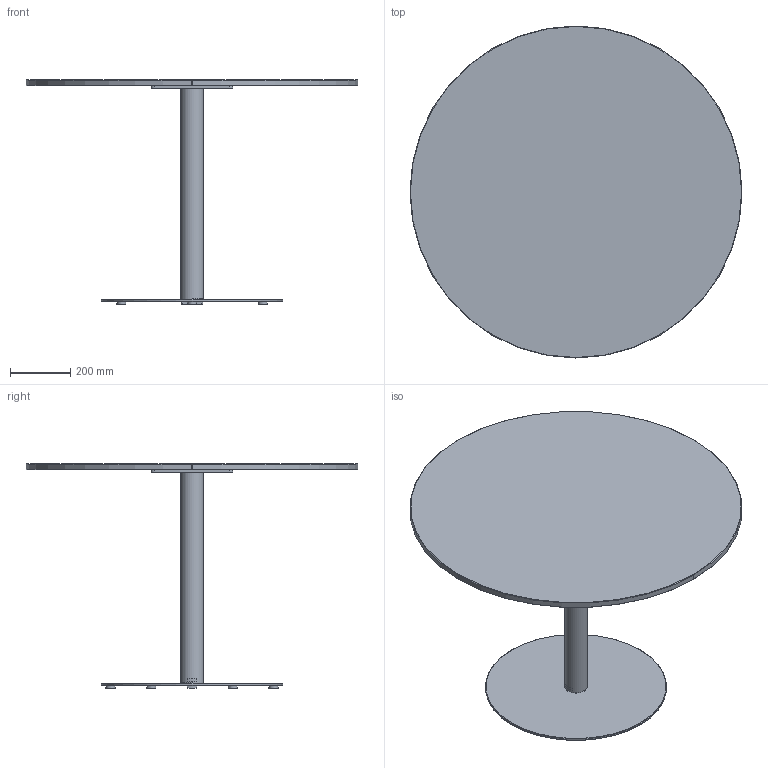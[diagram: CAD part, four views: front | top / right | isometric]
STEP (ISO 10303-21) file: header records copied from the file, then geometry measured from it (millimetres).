
FILE_DESCRIPTION( ('This file contains a STEP AP42 implementation' ,'as created by ZW3D STEP Interface translator.') ,'2;1' );
FILE_NAME( 'Henri - B_Rond - F1 - M1 - 1100 x 1100 x 750.stp' ,'24 912.15 834', (''), ('ZWCAD Software Co.'), 'Version 1.0', 'ZW3D to STEP translator', '' );
FILE_SCHEMA(('AUTOMOTIVE_DESIGN { 1 0 10303 214 1 1 1 1 }'));
Length unit declared in the file: millimetre
Products named in the file (14): 0; PIED BISTROT PARAMETRIQUE_; COLONNE ACIER Ø76 V.02_; TUB-D076-02_; PLA-R76B-01_; CROIX ACIER 370 V.02_; CRX-X370-02_; SOCLE ACIER C Ø600 V.02_; SCL-D600-02_; PLA-R30A-01_; PLA-R30A-01; WUERTH 0276063020 Euro-screw 6.3x2 Verzinkt_; PLATEAU BISTROT PARAMETRIQUE_; insert_m6_13_
Assembly tree (24 placements, depth 3):
  0
  PIED BISTROT PARAMETRIQUE_
    COLONNE ACIER Ø76 V.02_
      TUB-D076-02_
      PLA-R76B-01_  x2
    CROIX ACIER 370 V.02_
      CRX-X370-02_
    SOCLE ACIER C Ø600 V.02_
      SCL-D600-02_
      PLA-R30A-01_
      PLA-R30A-01  x5
    WUERTH 0276063020 Euro-screw 6.3x2 Verzinkt_
    PLATEAU BISTROT PARAMETRIQUE_
      insert_m6_13_  x8
Bounding box: 1100 x 1100 x 744 mm (x, y, z)
Volume: 22219205.5 mm3; surface area: 3069737.9 mm2
Topology: 21 solids, 21 shells, 524 faces, 1273 edges, 802 vertices
Faces by surface type: plane 254, bspline 121, cylinder 99, cone 49, torus 1
Full cylindrical faces by diameter (mm): 4.88 x1, 6 x8, 6.3 x1, 8 x47, 12 x2, 14 x2, 30 x6, 72 x1, 76 x1, 600 x1
Entity records: 11734 total; most frequent: CARTESIAN_POINT 3302, ORIENTED_EDGE 1526, DIRECTION 1424, EDGE_CURVE 763, VERTEX_POINT 490, VECTOR 476, LINE 476, AXIS2_PLACEMENT_3D 474
